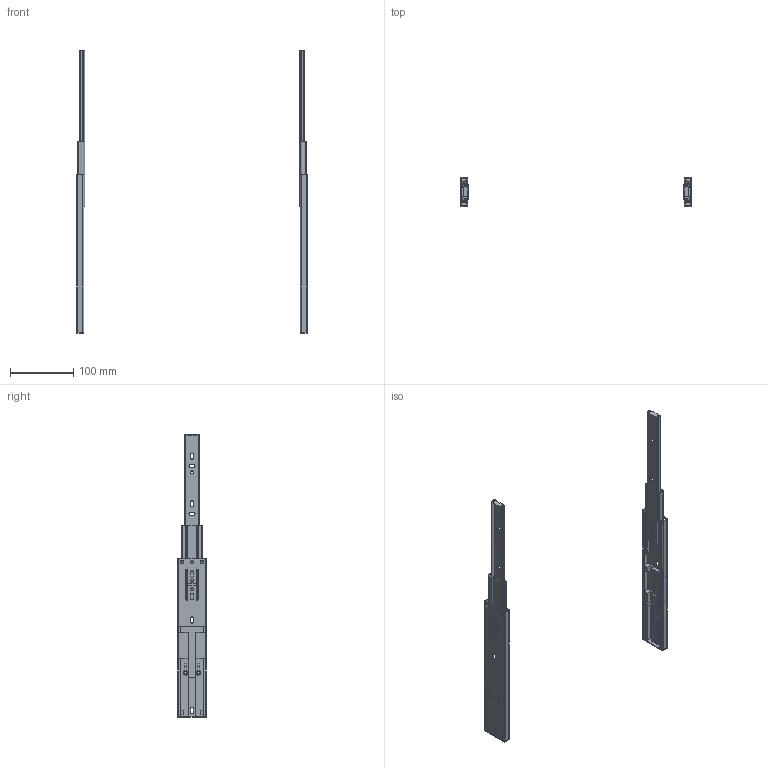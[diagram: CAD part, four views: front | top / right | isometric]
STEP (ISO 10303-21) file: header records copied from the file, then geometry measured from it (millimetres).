
FILE_DESCRIPTION(/* description */ (''),/* implementation_level */ '2;1');
FILE_NAME(/* name */ 'D:\$Workingspace\Designs\Katalog\Cadsoft\GTV Prowadnice\Prowadnice GTV_bryły 3D\PK-L-H45-250-A_wysunieta.stp',/* time_stamp */ '2016-11-22T14:17:35+01:00',/* author */ ('tomaszw'),/* organization */ (''),/* preprocessor_version */ 'ST-DEVELOPER v16.1',/* originating_system */ 'Autodesk Inventor 2016',/* authorisation */ '');
FILE_SCHEMA (('AUTOMOTIVE_DESIGN { 1 0 10303 214 3 1 1 }'));
Length unit declared in the file: millimetre
Products named in the file (6): PK-L-H45_1-250-A; PK-L-H45_2-250-A; PK-L-H45_3-250-A; PK-L-H45_4-_-A; PK-L-H45_5-_-A; PK-L-H45-_-A
Assembly tree (10 placements, depth 2):
  PK-L-H45-_-A
    PK-L-H45_1-250-A  x2
    PK-L-H45_2-250-A  x2
    PK-L-H45_3-250-A  x2
    PK-L-H45_4-_-A  x2
    PK-L-H45_5-_-A  x2
Bounding box: 364 x 45.5 x 445 mm (x, y, z)
Volume: 121134.7 mm3; surface area: 165206.1 mm2
Topology: 12 solids, 12 shells, 540 faces, 1556 edges, 1036 vertices
Faces by surface type: plane 334, cylinder 206
Full cylindrical faces by diameter (mm): 4.2 x4, 4.5 x6, 7.2 x4
Entity records: 9388 total; most frequent: CARTESIAN_POINT 1660, DIRECTION 1539, ORIENTED_EDGE 1538, EDGE_CURVE 769, LINE 557, VECTOR 557, VERTEX_POINT 516, AXIS2_PLACEMENT_3D 491
